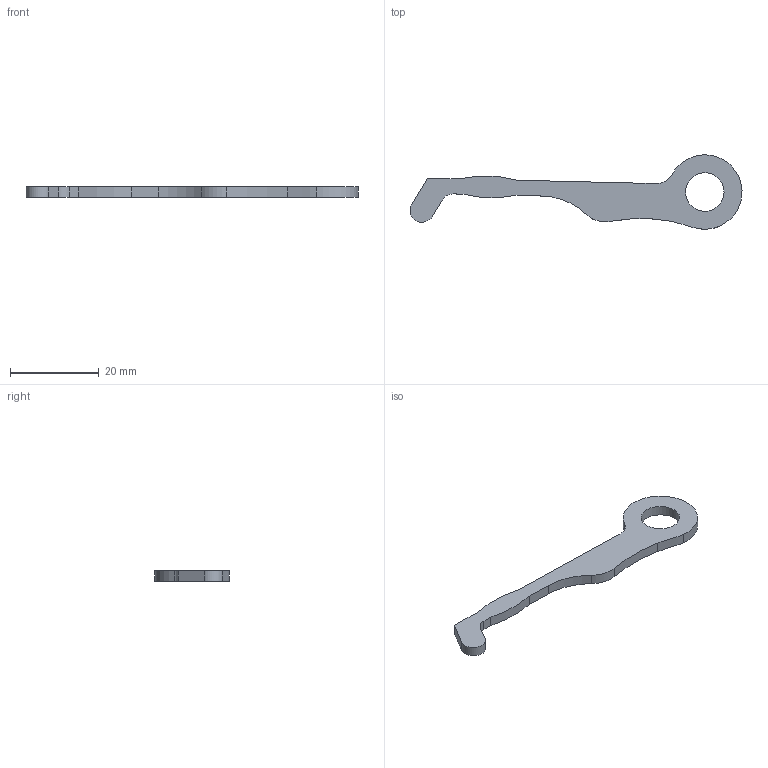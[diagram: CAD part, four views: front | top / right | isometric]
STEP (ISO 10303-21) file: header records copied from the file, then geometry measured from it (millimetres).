
FILE_DESCRIPTION(/* description */ (''),/* implementation_level */ '2;1');
FILE_NAME(/* name */ 'D:\Desktop\WatchCAdFiles\ScaledTo_5.8\NewFolder\lever.stp',/* time_stamp */ '2019-03-14T17:00:44+01:00',/* author */ ('fkhad'),/* organization */ (''),/* preprocessor_version */ 'ST-DEVELOPER v17',/* originating_system */ 'Autodesk Inventor 2018',/* authorisation */ '');
FILE_SCHEMA (('AUTOMOTIVE_DESIGN { 1 0 10303 214 3 1 1 }'));
Length unit declared in the file: inch
Products named in the file (1): Solid7
Bounding box: 74.99 x 16.81 x 2.32 mm (x, y, z)
Volume: 1188.3 mm3; surface area: 1489.5 mm2
Topology: 1 solids, 1 shells, 19 faces, 53 edges, 36 vertices
Faces by surface type: cylinder 10, plane 8, bspline 1
Full cylindrical faces by diameter (mm): 8.7 x1
Entity records: 702 total; most frequent: CARTESIAN_POINT 122, DIRECTION 111, ORIENTED_EDGE 106, EDGE_CURVE 53, AXIS2_PLACEMENT_3D 41, VERTEX_POINT 36, LINE 29, VECTOR 29
